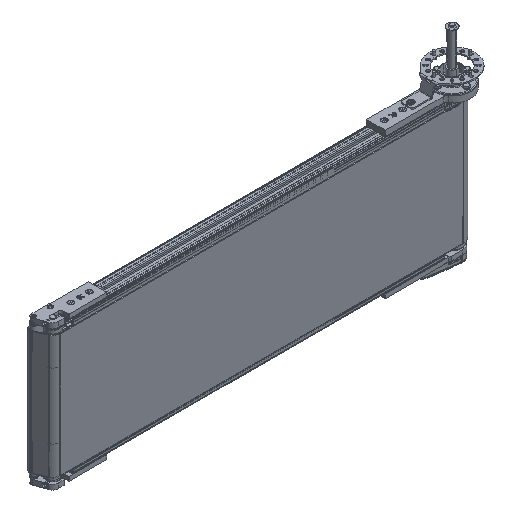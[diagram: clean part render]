
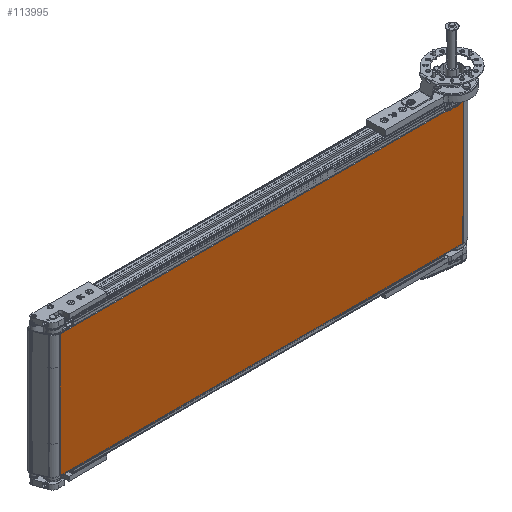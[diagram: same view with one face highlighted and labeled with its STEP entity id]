
A CAD part, isometric view. The second image highlights one B-rep face of the part: STEP entity #113995.
In plain terms, the highlighted planar face has unit normal (0, -1, 0).
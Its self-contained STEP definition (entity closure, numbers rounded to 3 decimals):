
#9005 = CARTESIAN_POINT ( 'NONE',  ( 492., -27., -150. ) ) ;
#11726 = AXIS2_PLACEMENT_3D ( 'NONE', #21314, #100812, #20737 ) ;
#11945 = ORIENTED_EDGE ( 'NONE', *, *, #53575, .T. ) ;
#15974 = VECTOR ( 'NONE', #74118, 1000. ) ;
#20737 = DIRECTION ( 'NONE',  ( -1., 0., 0. ) ) ;
#21314 = CARTESIAN_POINT ( 'NONE',  ( -488., -27., 150. ) ) ;
#21410 = LINE ( 'NONE', #40614, #56209 ) ;
#22917 = ORIENTED_EDGE ( 'NONE', *, *, #79862, .F. ) ;
#26868 = ORIENTED_EDGE ( 'NONE', *, *, #111322, .F. ) ;
#32130 = VECTOR ( 'NONE', #40088, 1000. ) ;
#38421 = LINE ( 'NONE', #39565, #15974 ) ;
#39565 = CARTESIAN_POINT ( 'NONE',  ( -488., -27., 150. ) ) ;
#40088 = DIRECTION ( 'NONE',  ( 1., 0., 0. ) ) ;
#40614 = CARTESIAN_POINT ( 'NONE',  ( -488., -27., 150. ) ) ;
#41835 = CARTESIAN_POINT ( 'NONE',  ( -488., -27., 150. ) ) ;
#46732 = EDGE_LOOP ( 'NONE', ( #11945, #22917, #26868, #68543 ) ) ;
#48733 = CARTESIAN_POINT ( 'NONE',  ( 492., -27., 150. ) ) ;
#49066 = CARTESIAN_POINT ( 'NONE',  ( 492., -27., 150. ) ) ;
#49411 = LINE ( 'NONE', #66992, #32130 ) ;
#53575 = EDGE_CURVE ( 'NONE', #101196, #66371, #49411, .T. ) ;
#56209 = VECTOR ( 'NONE', #92735, 1000. ) ;
#62263 = EDGE_CURVE ( 'NONE', #105481, #101196, #38421, .T. ) ;
#63348 = CARTESIAN_POINT ( 'NONE',  ( -488., -27., -150. ) ) ;
#65123 = PLANE ( 'NONE',  #11726 ) ;
#66371 = VERTEX_POINT ( 'NONE', #9005 ) ;
#66992 = CARTESIAN_POINT ( 'NONE',  ( -488., -27., -150. ) ) ;
#68543 = ORIENTED_EDGE ( 'NONE', *, *, #62263, .T. ) ;
#74118 = DIRECTION ( 'NONE',  ( 0., 0., -1. ) ) ;
#78955 = VERTEX_POINT ( 'NONE', #48733 ) ;
#79862 = EDGE_CURVE ( 'NONE', #78955, #66371, #94709, .T. ) ;
#82692 = FACE_OUTER_BOUND ( 'NONE', #46732, .T. ) ;
#84773 = DIRECTION ( 'NONE',  ( 0., 0., -1. ) ) ;
#86188 = VECTOR ( 'NONE', #84773, 1000. ) ;
#92735 = DIRECTION ( 'NONE',  ( 1., 0., 0. ) ) ;
#94709 = LINE ( 'NONE', #49066, #86188 ) ;
#100812 = DIRECTION ( 'NONE',  ( 0., 1., 0. ) ) ;
#101196 = VERTEX_POINT ( 'NONE', #63348 ) ;
#105481 = VERTEX_POINT ( 'NONE', #41835 ) ;
#111322 = EDGE_CURVE ( 'NONE', #105481, #78955, #21410, .T. ) ;
#113995 = ADVANCED_FACE ( 'NONE', ( #82692 ), #65123, .F. ) ;
